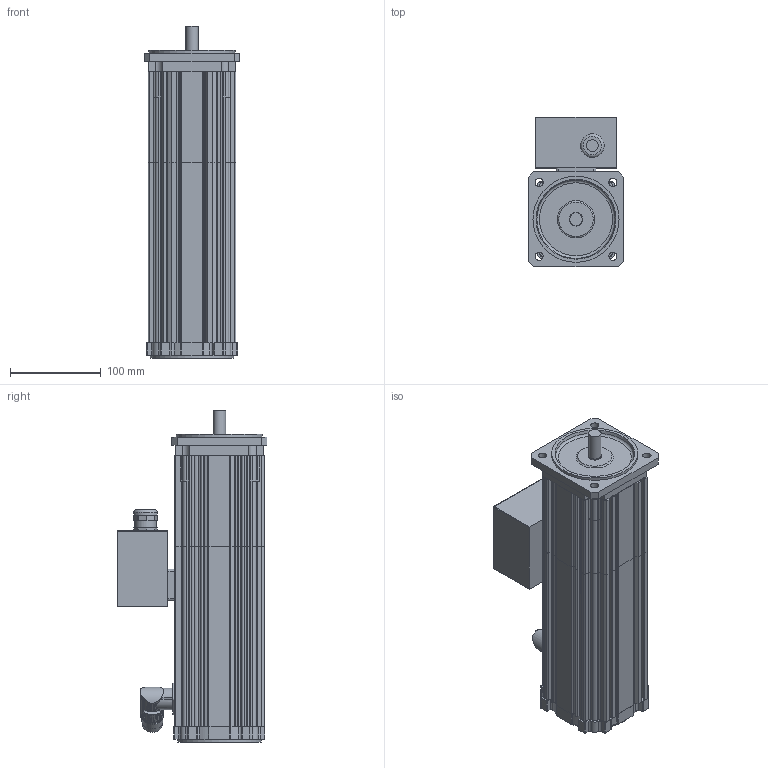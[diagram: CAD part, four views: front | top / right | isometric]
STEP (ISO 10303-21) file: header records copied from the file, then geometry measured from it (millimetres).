
FILE_DESCRIPTION(/* description */ (''),/* implementation_level */ '2;1');
FILE_NAME(/* name */ 'KSA449_MC_Ix',/* time_stamp */ '2009-02-26T14:05:58+01:00',/* author */ (''),/* organization */ (''),/* preprocessor_version */ 'ST-DEVELOPER v8',/* originating_system */ 'UNIGRAPHICS SOLUTIONS - UNIGRAPHICS 18.0',/* authorisation */ '');
FILE_SCHEMA (('AUTOMOTIVE_DESIGN { 1 2 10303 214 0 1 1 1 }'));
Length unit declared in the file: millimetre
Products named in the file (7): 0280391350_0; Lagersch4AS_0; Winkelflanschdose_0; Lagersch4BS_0; 089105X_0; Klemmenkasten_0; KSA444_MC_Ix_0
Assembly tree (6 placements, depth 3):
  KSA444_MC_Ix_0
    089105X_0
    Lagersch4BS_0
    Klemmenkasten_0
      0280391350_0
    Winkelflanschdose_0
    Lagersch4AS_0
Bounding box: 105 x 165.35 x 366 mm (x, y, z)
Volume: 1590693.1 mm3; surface area: 438036.9 mm2
Topology: 7 solids, 7 shells, 748 faces, 2115 edges, 1399 vertices
Faces by surface type: cylinder 424, plane 290, torus 12, cone 10, bspline 8, sphere 4
Full cylindrical faces by diameter (mm): 9 x4, 13 x1, 14 x1, 15 x1, 16 x1, 18 x1, 20 x2, 21 x1, 21.5 x1, 23 x2, 24 x1, 26 x1, 89.6 x2, 91 x1, 95 x1
Entity records: 24949 total; most frequent: CARTESIAN_POINT 5174, DIRECTION 4142, ORIENTED_EDGE 4138, EDGE_CURVE 2069, AXIS2_PLACEMENT_3D 1522, VERTEX_POINT 1388, LINE 1098, VECTOR 1098
